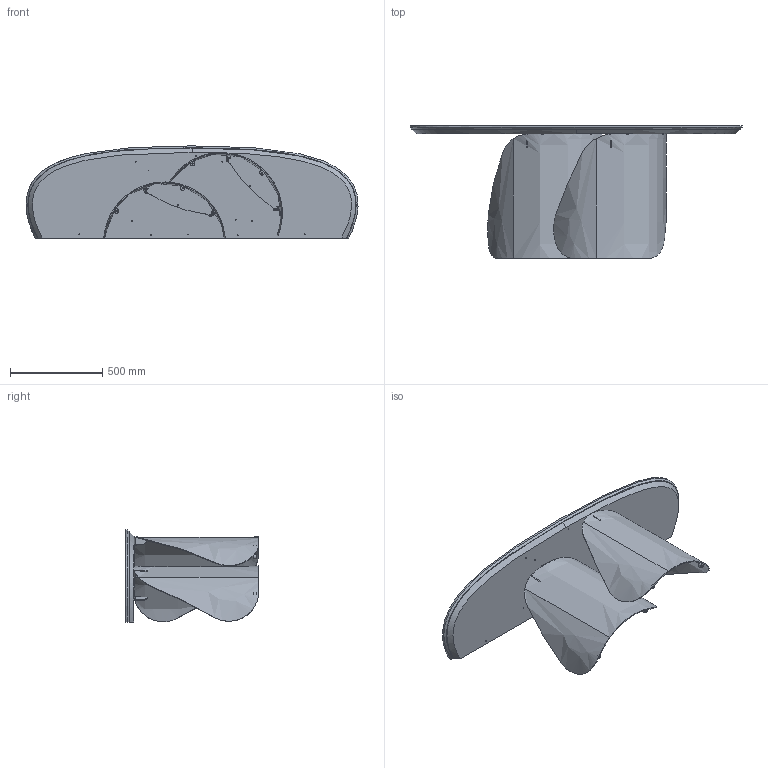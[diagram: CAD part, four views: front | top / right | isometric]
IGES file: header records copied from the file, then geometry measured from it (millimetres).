
Start section: SolidWorks IGES file using analytic representation for surfaces
Global section: file name: Y:\eforma\TECNICO\SOLIDWORKS\E-FORMA\3-CONSOLE\ONDA CONSOLE\02 parts\ON61M_Onda Console_180x50x72h_Marble Shaped.IGS; native system: SolidWorks 2022; preprocessor: SolidWorks 2022; author: eforma.tech; date: 240806.114657; units: millimetre
Bounding box: 1799.74 x 720 x 500 mm (x, y, z)
Volume: 40513498.2 mm3; surface area: 5598817.1 mm2
Topology: 10 solids, 10 shells, 282 faces, 712 edges, 430 vertices
Faces by surface type: revolution 168, plane 66, bspline 48
